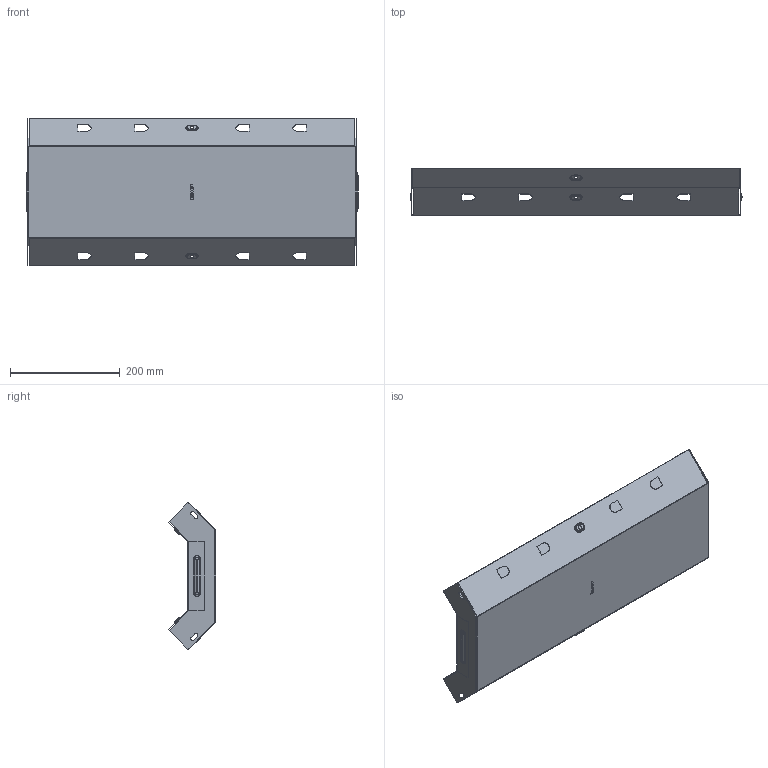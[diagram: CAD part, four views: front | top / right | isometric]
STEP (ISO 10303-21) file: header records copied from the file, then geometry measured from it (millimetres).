
FILE_DESCRIPTION (( 'STEP AP214' ), '1' );
FILE_NAME ('vi9050600_捘.STEP', '2019-06-10T09:28:30', ( '砐錪賧瘔蠈錪 Windows' ), ( '' ), 'SwSTEP 2.0', 'SolidWorks 2018', '' );
FILE_SCHEMA (( 'AUTOMOTIVE_DESIGN' ));
Length unit declared in the file: millimetre
Products named in the file (1): vi9050600_捘
Bounding box: 605.6 x 86.16 x 267.58 mm (x, y, z)
Volume: 279322.3 mm3; surface area: 702332.6 mm2
Topology: 2 solids, 2 shells, 448 faces, 1152 edges, 736 vertices
Faces by surface type: plane 246, cylinder 120, torus 64, bspline 18
Entity records: 14524 total; most frequent: CARTESIAN_POINT 3356, DIRECTION 2314, ORIENTED_EDGE 2304, EDGE_CURVE 1152, LINE 780, VECTOR 780, AXIS2_PLACEMENT_3D 767, VERTEX_POINT 736
